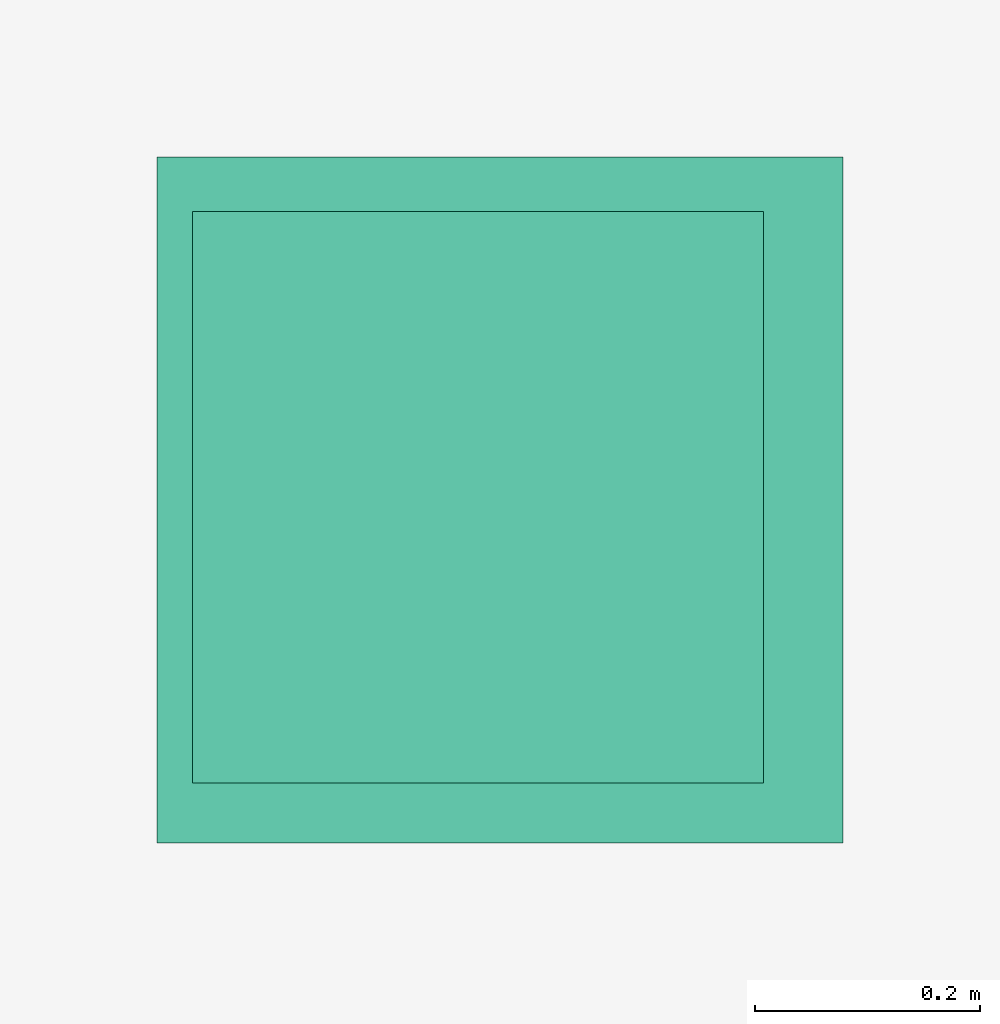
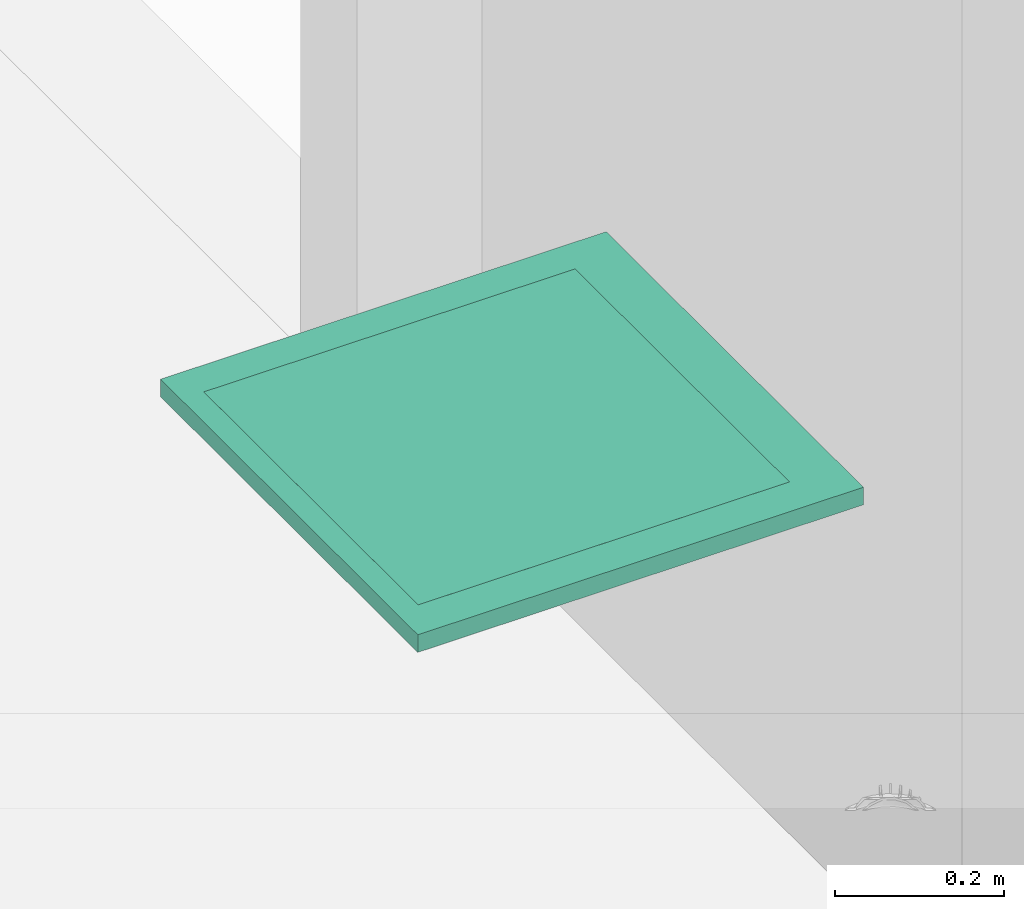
# One storey, part 84 of 108: 2 air terminals.
"""IFC4 building model written with IfcOpenShell, lengths in feet."""

from ifc_helpers import new_model, entity, si_unit, converted_unit, derived_unit, direction, frame, origin, origin_2d_with_axis, place, context, subcontext, project, spatial, rectangle, extrude, source, transform, mapped, type_object, type_shapes, element, save


model = new_model("IFC4")

# Units and contexts
model_context = context("Model", 3, precision=0.0001, world=origin(), true_north=direction((6.12303176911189e-17, 1.0)))
body_context = subcontext(model_context, "Body", "Model", "MODEL_VIEW")
ifc_project = project(units=[converted_unit("LENGTHUNIT", "FOOT", entity("IfcRatioMeasure", 0.3048), si_unit("LENGTHUNIT", "METRE"), dimensions=[1, 0, 0, 0, 0, 0, 0]), converted_unit("AREAUNIT", "SQUARE FOOT", entity("IfcRatioMeasure", 0.09290304), si_unit("AREAUNIT", "SQUARE_METRE"), dimensions=[2, 0, 0, 0, 0, 0, 0]), converted_unit("VOLUMEUNIT", "CUBIC FOOT", entity("IfcRatioMeasure", 0.028316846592), si_unit("VOLUMEUNIT", "CUBIC_METRE"), dimensions=[3, 0, 0, 0, 0, 0, 0]), converted_unit("PLANEANGLEUNIT", "DEGREE", entity("IfcRatioMeasure", 0.0174532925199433), si_unit("PLANEANGLEUNIT", "RADIAN"), dimensions=[0, 0, 0, 0, 0, 0, 0]), si_unit("MASSUNIT", "GRAM", prefix="KILO"), derived_unit("MASSDENSITYUNIT", [(si_unit("MASSUNIT", "GRAM", prefix="KILO"), 1), (si_unit("LENGTHUNIT", "METRE"), -3)]), si_unit("TIMEUNIT", "SECOND"), si_unit("FREQUENCYUNIT", "HERTZ"), si_unit("THERMODYNAMICTEMPERATUREUNIT", "DEGREE_CELSIUS"), derived_unit("THERMALTRANSMITTANCEUNIT", [(si_unit("MASSUNIT", "GRAM", prefix="KILO"), 1), (si_unit("THERMODYNAMICTEMPERATUREUNIT", "KELVIN"), -1), (si_unit("TIMEUNIT", "SECOND"), -3)]), derived_unit("VOLUMETRICFLOWRATEUNIT", [(si_unit("LENGTHUNIT", "METRE"), 3), (si_unit("TIMEUNIT", "SECOND"), -1)]), si_unit("ELECTRICCURRENTUNIT", "AMPERE"), si_unit("ELECTRICVOLTAGEUNIT", "VOLT"), si_unit("POWERUNIT", "WATT"), si_unit("FORCEUNIT", "NEWTON"), si_unit("ILLUMINANCEUNIT", "LUX"), si_unit("LUMINOUSFLUXUNIT", "LUMEN"), si_unit("LUMINOUSINTENSITYUNIT", "CANDELA"), derived_unit("USERDEFINED", [(si_unit("MASSUNIT", "GRAM", prefix="KILO"), -1), (si_unit("LENGTHUNIT", "METRE"), -2), (si_unit("TIMEUNIT", "SECOND"), 3), (si_unit("LUMINOUSFLUXUNIT", "LUMEN"), 1)]), derived_unit("LINEARVELOCITYUNIT", [(si_unit("LENGTHUNIT", "METRE"), 1), (si_unit("TIMEUNIT", "SECOND"), -1)]), si_unit("PRESSUREUNIT", "PASCAL"), derived_unit("USERDEFINED", [(si_unit("LENGTHUNIT", "METRE"), -2), (si_unit("MASSUNIT", "GRAM", prefix="KILO"), 1), (si_unit("TIMEUNIT", "SECOND"), -2)])], contexts=[model_context])

# Site, building, storey
site_placement = place(None, origin())
site = spatial("IfcSite", under=ifc_project, at=site_placement, Name="Default", CompositionType="ELEMENT")
building_placement = place(site_placement, origin())
building = spatial("IfcBuilding", under=site, at=building_placement, CompositionType="ELEMENT")
storey_placement = place(building_placement, frame((0.0, 0.0, 168.0)))
storey = spatial("IfcBuildingStorey", under=building, at=storey_placement, Name="Level 15", CompositionType="ELEMENT", Elevation=168.0)

# Air terminals
air_terminal_type_1 = type_object("IfcAirTerminalType", Name="20 x 20", PredefinedType="NOTDEFINED")
shared_shape_1 = source(origin(), body_context, "Body", "SweptSolid", [
    extrude(rectangle(XDim=1.66666666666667, YDim=1.66666666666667, at=origin_2d_with_axis()), frame((0.833333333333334, 0.833333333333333, 0.0), z_axis=(0.0, 0.0, 1.0), x_axis=(-1.0, 0.0, 0.0)), (0.0, 0.0, 1.0), 0.083333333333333),
])
type_shapes(air_terminal_type_1, [shared_shape_1])
air_terminal_1_placement = place(storey_placement, frame((54.6905302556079, -6.37269535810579, 8.41666666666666)))
element("IfcAirTerminal", 1, at=air_terminal_1_placement, inside=storey, type_object=air_terminal_type_1, Name="Square Supply Diffuser (1):20 x 20", ObjectType="Square Supply Diffuser (1):20 x 20", PredefinedType="NOTDEFINED", context=body_context, shape_type="MappedRepresentation", body=[
    mapped(shared_shape_1, transform((0.0, 0.0, 0.0), scale=1.0)),
])
air_terminal_type_2 = type_object("IfcAirTerminalType", Name="24x 24", PredefinedType="NOTDEFINED")
shared_shape_2 = source(origin(), body_context, "Body", "SweptSolid", [
    extrude(rectangle(XDim=2.0, YDim=2.0, at=origin_2d_with_axis()), frame((1.0, 1.0, 0.0), z_axis=(0.0, 0.0, 1.0), x_axis=(-1.0, 0.0, 0.0)), (0.0, 0.0, 1.0), 0.083333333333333),
])
type_shapes(air_terminal_type_2, [shared_shape_2])
air_terminal_2_placement = place(storey_placement, frame((54.587954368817, -6.54777754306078, 8.41666666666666)))
element("IfcAirTerminal", 2, at=air_terminal_2_placement, inside=storey, type_object=air_terminal_type_2, Name="Square Supply Diffuser (1):24x 24", ObjectType="Square Supply Diffuser (1):24x 24", PredefinedType="NOTDEFINED", context=body_context, shape_type="MappedRepresentation", body=[
    mapped(shared_shape_2, transform((0.0, 0.0, 0.0), scale=1.0)),
])

save(model, "model.ifc")
